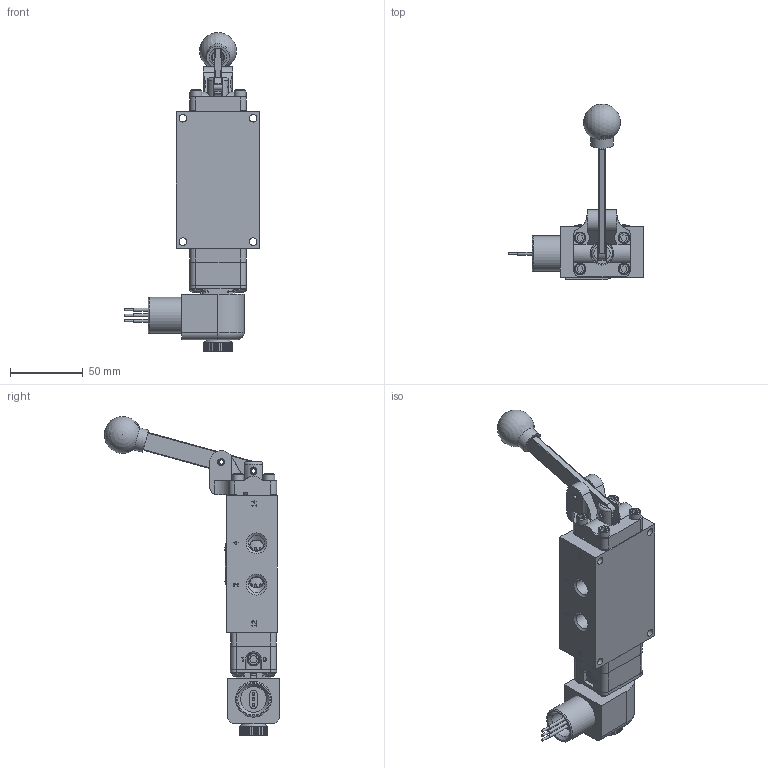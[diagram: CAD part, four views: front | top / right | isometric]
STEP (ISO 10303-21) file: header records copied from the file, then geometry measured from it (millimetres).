
FILE_DESCRIPTION(/* description */ (''),/* implementation_level */ '2;1');
FILE_NAME(/* name */ 'D:\Engineering\Product\valves\Assembly\Standard\ESAH\stp\ESAH2XL.stp',/* time_stamp */ '2021-04-12T17:08:06-04:00',/* author */ ('RMcKenna'),/* organization */ (''),/* preprocessor_version */ 'ST-DEVELOPER v18.1',/* originating_system */ 'Autodesk Inventor 2021',/* authorisation */ '');
FILE_SCHEMA (('AUTOMOTIVE_DESIGN { 1 0 10303 214 3 1 1 }'));
Products named in the file (1): Part99
Bounding box: 92.94 x 120.68 x 219.38 mm (x, y, z)
Volume: 275486.8 mm3; surface area: 88262.4 mm2
Topology: 2 solids, 30 shells, 1955 faces, 4951 edges, 3181 vertices
Faces by surface type: plane 896, cylinder 506, cone 275, torus 156, bspline 115, sphere 7
Full cylindrical faces by diameter (mm): 1.3 x1, 1.397 x1, 1.5 x1, 1.524 x3, 2.032 x11, 2.07 x2, 2.261 x2, 2.35 x4, 2.778 x2, 2.8 x1, 2.819 x1, 3 x4, 3.048 x2, 3.175 x1, 3.4 x1, 3.683 x12, 3.912 x3, 4.191 x2, 4.394 x1, 4.75 x2, 4.763 x2, 4.826 x8, 4.953 x1, 4.978 x4, 5.055 x1, 5.15 x4, 5.156 x12, 5.5 x1, 6.553 x1, 7.315 x1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
Entity records: 65146 total; most frequent: CARTESIAN_POINT 16280, ORIENTED_EDGE 9868, DIRECTION 9614, EDGE_CURVE 4934, AXIS2_PLACEMENT_3D 3555, VERTEX_POINT 3181, LINE 2504, VECTOR 2504
